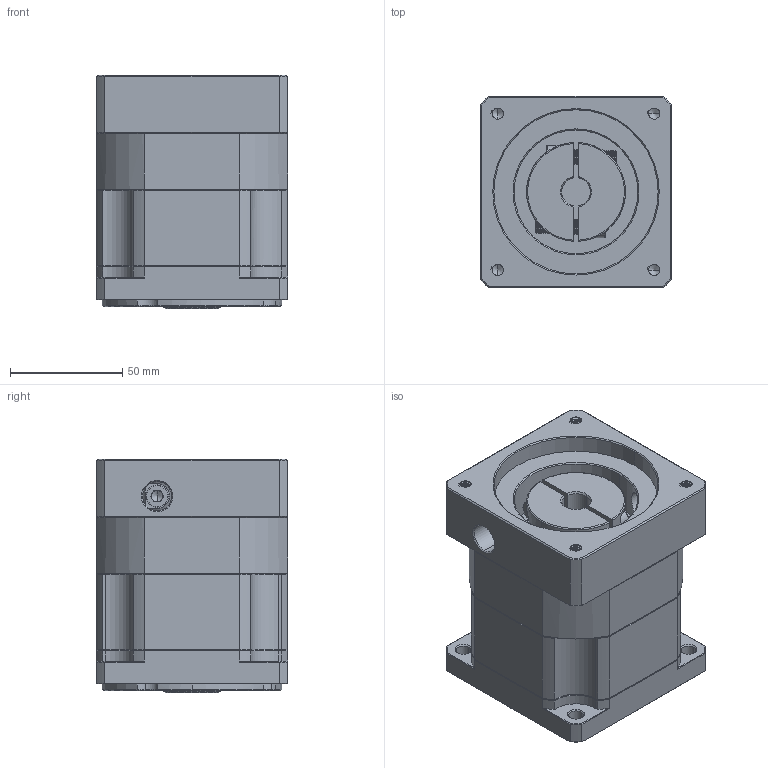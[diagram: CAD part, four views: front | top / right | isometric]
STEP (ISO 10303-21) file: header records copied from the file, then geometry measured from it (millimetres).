
FILE_DESCRIPTION (( 'STEP AP214' ), '1' );
FILE_NAME ('ZB090-K15-L1-P2-12.7-73-69.6X69.6-M6.step', '2023-08-18T12:16:05', ( '' ), ( '' ), 'SwSTEP 2.0', 'SolidWorks 2016', '' );
FILE_SCHEMA (( 'AUTOMOTIVE_DESIGN' ));
Length unit declared in the file: millimetre
Products named in the file (1): ZB090-K15-L1-P2-12.7-73-69.6X69.6-M6
Bounding box: 85 x 85 x 104 mm (x, y, z)
Volume: 590409.9 mm3; surface area: 85129.3 mm2
Topology: 4 solids, 5 shells, 2157 faces, 5730 edges, 3657 vertices
Faces by surface type: plane 1055, bspline 390, cylinder 358, cone 329, torus 25
Entity records: 114805 total; most frequent: CARTESIAN_POINT 40619, ORIENTED_EDGE 11420, DIRECTION 8979, EDGE_CURVE 5710, VECTOR 3669, LINE 3669, VERTEX_POINT 3657, AXIS2_PLACEMENT_3D 2655
